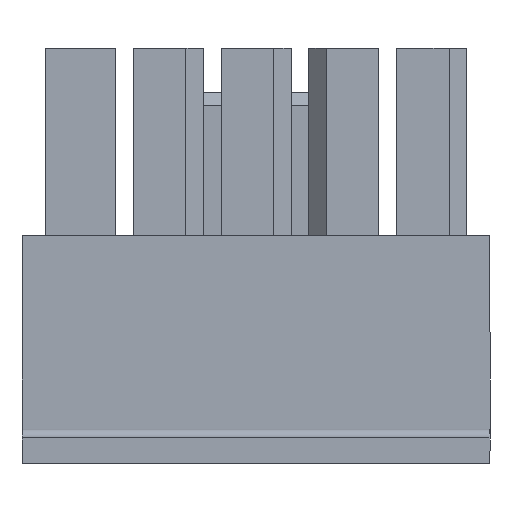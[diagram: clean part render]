
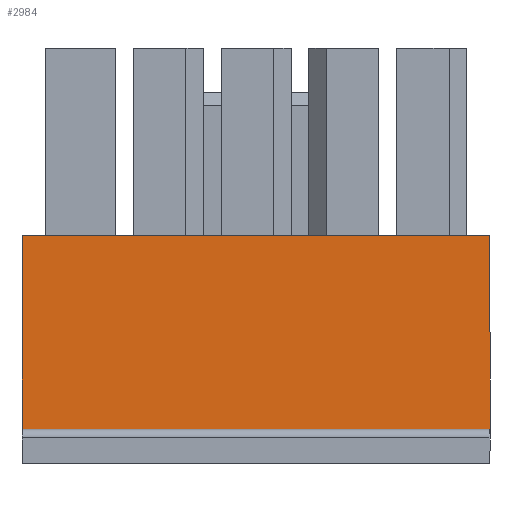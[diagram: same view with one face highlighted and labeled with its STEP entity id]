
A CAD part, top view. The second image highlights one B-rep face of the part: STEP entity #2984.
In plain terms, the highlighted planar face has unit normal (0, 0, 1).
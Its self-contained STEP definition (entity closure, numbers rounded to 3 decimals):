
#212 = CARTESIAN_POINT ( 'NONE',  ( 6.495, 3.65, 3.45 ) ) ;
#289 = CARTESIAN_POINT ( 'NONE',  ( 6.495, -2.98, 3.45 ) ) ;
#334 = VERTEX_POINT ( 'NONE', #4958 ) ;
#358 = VERTEX_POINT ( 'NONE', #4409 ) ;
#1372 = LINE ( 'NONE', #1402, #2272 ) ;
#1395 = LINE ( 'NONE', #1396, #2278 ) ;
#1396 = CARTESIAN_POINT ( 'NONE',  ( 6.495, -0.25, 3.45 ) ) ;
#1397 = DIRECTION ( 'NONE',  ( 0., -1., 0. ) ) ;
#1398 = LINE ( 'NONE', #1400, #2279 ) ;
#1400 = CARTESIAN_POINT ( 'NONE',  ( -0.005, 3.65, 3.45 ) ) ;
#1401 = DIRECTION ( 'NONE',  ( 1., 0., 0. ) ) ;
#1402 = CARTESIAN_POINT ( 'NONE',  ( -9.505, -0.25, 3.45 ) ) ;
#1403 = DIRECTION ( 'NONE',  ( 0., 1., 0. ) ) ;
#1735 = LINE ( 'NONE', #1744, #2388 ) ;
#1744 = CARTESIAN_POINT ( 'NONE',  ( -0.005, -2.98, 3.45 ) ) ;
#1746 = DIRECTION ( 'NONE',  ( 1., 0., 0. ) ) ;
#2157 = AXIS2_PLACEMENT_3D ( 'NONE', #2713, #2719, #2720 ) ;
#2272 = VECTOR ( 'NONE', #1403, 1000. ) ;
#2278 = VECTOR ( 'NONE', #1397, 1000. ) ;
#2279 = VECTOR ( 'NONE', #1401, 1000. ) ;
#2388 = VECTOR ( 'NONE', #1746, 1000. ) ;
#2711 = PLANE ( 'NONE',  #2157 ) ;
#2713 = CARTESIAN_POINT ( 'NONE',  ( -9.505, -2.98, 3.45 ) ) ;
#2717 = FACE_OUTER_BOUND ( 'NONE', #4680, .T. ) ;
#2719 = DIRECTION ( 'NONE',  ( 0., 0., 1. ) ) ;
#2720 = DIRECTION ( 'NONE',  ( 1., 0., 0. ) ) ;
#2984 = ADVANCED_FACE ( 'NONE', ( #2717 ), #2711, .T. ) ;
#3108 = EDGE_CURVE ( 'NONE', #4954, #5213, #1395, .T. ) ;
#3109 = EDGE_CURVE ( 'NONE', #358, #4954, #1398, .T. ) ;
#3110 = EDGE_CURVE ( 'NONE', #334, #358, #1372, .T. ) ;
#3221 = EDGE_CURVE ( 'NONE', #334, #5213, #1735, .T. ) ;
#4253 = ORIENTED_EDGE ( 'NONE', *, *, #3221, .T. ) ;
#4254 = ORIENTED_EDGE ( 'NONE', *, *, #3108, .F. ) ;
#4255 = ORIENTED_EDGE ( 'NONE', *, *, #3109, .F. ) ;
#4256 = ORIENTED_EDGE ( 'NONE', *, *, #3110, .F. ) ;
#4409 = CARTESIAN_POINT ( 'NONE',  ( -9.505, 3.65, 3.45 ) ) ;
#4680 = EDGE_LOOP ( 'NONE', ( #4253, #4254, #4255, #4256 ) ) ;
#4954 = VERTEX_POINT ( 'NONE', #212 ) ;
#4958 = CARTESIAN_POINT ( 'NONE',  ( -9.505, -2.98, 3.45 ) ) ;
#5213 = VERTEX_POINT ( 'NONE', #289 ) ;
